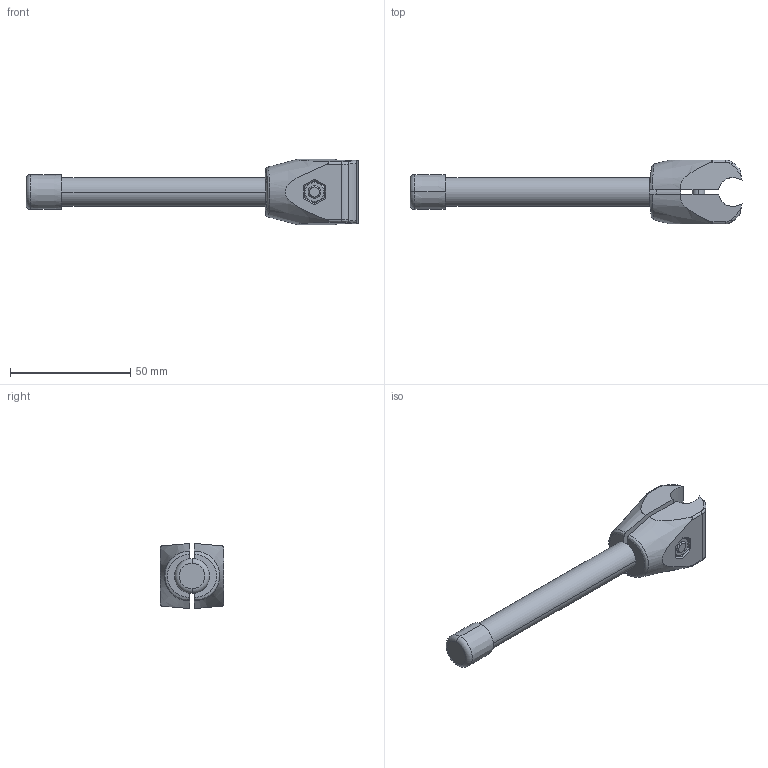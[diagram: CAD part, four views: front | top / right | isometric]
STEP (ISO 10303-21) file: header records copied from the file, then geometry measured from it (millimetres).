
FILE_DESCRIPTION (( 'STEP AP214' ), '1' );
FILE_NAME ('AF712CC.step', '2017-04-05T07:35:56', ( '' ), ( '' ), 'SwSTEP 2.0', 'SolidWorks 2015', '' );
FILE_SCHEMA (( 'AUTOMOTIVE_DESIGN' ));
Length unit declared in the file: millimetre
Products named in the file (1): AF712CC
Bounding box: 137.8 x 26.4 x 27 mm (x, y, z)
Volume: 30270 mm3; surface area: 13192.9 mm2
Topology: 6 solids, 6 shells, 138 faces, 314 edges, 193 vertices
Faces by surface type: plane 72, cylinder 32, bspline 20, cone 12, torus 2
Entity records: 6434 total; most frequent: CARTESIAN_POINT 2336, ORIENTED_EDGE 624, DIRECTION 572, EDGE_CURVE 312, AXIS2_PLACEMENT_3D 205, VERTEX_POINT 193, LINE 162, VECTOR 162
